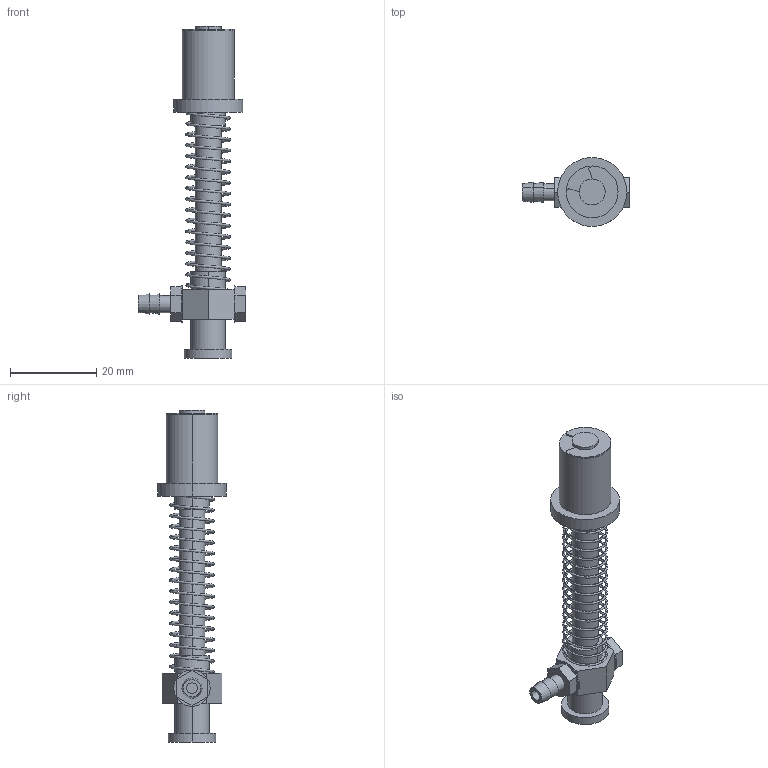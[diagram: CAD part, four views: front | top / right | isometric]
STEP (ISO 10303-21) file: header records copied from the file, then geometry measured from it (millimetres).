
FILE_DESCRIPTION (( 'STEP AP214' ), '1' );
FILE_NAME ('VFM-3012.STEP', '2019-11-16T02:18:40', ( '微软用户' ), ( '微软中国' ), 'SwSTEP 2.0', 'SolidWorks 2016', '' );
FILE_SCHEMA (( 'AUTOMOTIVE_DESIGN' ));
Length unit declared in the file: millimetre
Products named in the file (1): VFM-3012
Bounding box: 24.9 x 16 x 77 mm (x, y, z)
Volume: 5436.8 mm3; surface area: 5718.4 mm2
Topology: 9 solids, 9 shells, 140 faces, 329 edges, 217 vertices
Faces by surface type: cylinder 72, plane 56, cone 6, bspline 6
Entity records: 12244 total; most frequent: CARTESIAN_POINT 7456, ORIENTED_EDGE 654, DIRECTION 625, EDGE_CURVE 327, AXIS2_PLACEMENT_3D 237, VERTEX_POINT 217, EDGE_LOOP 164, UNCERTAINTY_MEASURE_WITH_UNIT 151
